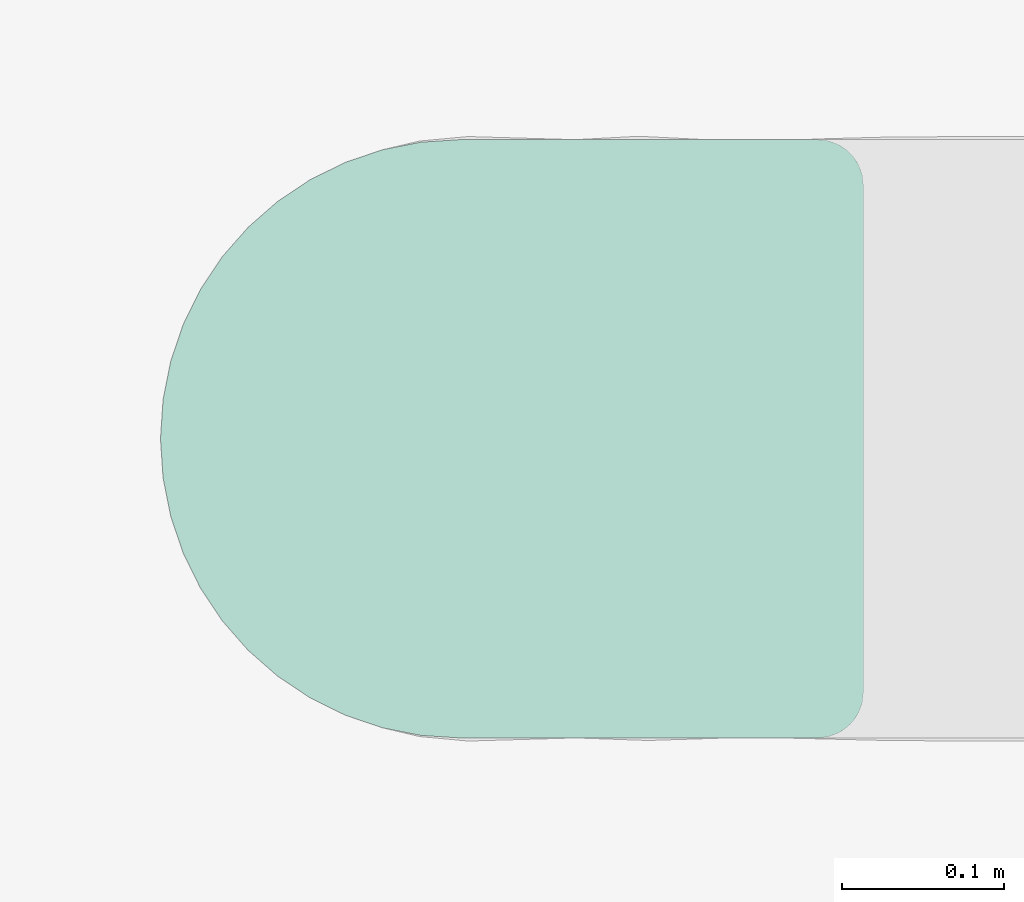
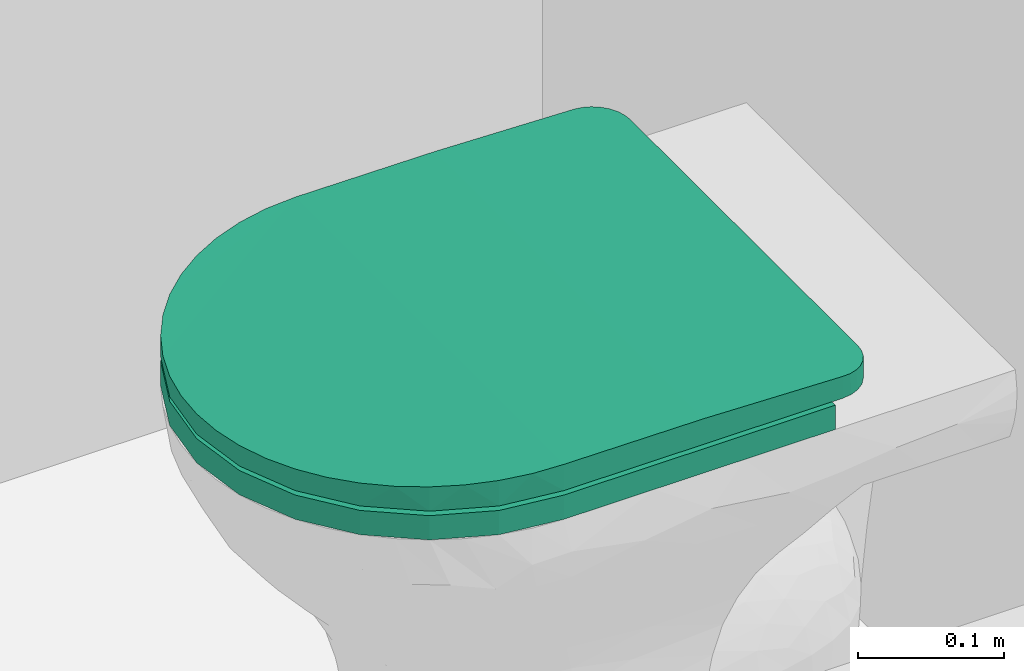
# One storey, part 8 of 10: 1 flow terminal.
"""IFC2X3 building model written with IfcOpenShell, lengths in metres."""

import ifcopenshell
import ifcopenshell.guid

model = None  # the IFC model being written
_history = None  # IfcOwnerHistory: only IFC2X3 demands one
_inside = {}  # id of a spatial element -> (the spatial element, [elements in it])
_under = {}  # id of a project, library or spatial element -> (it, [spatial elements below it])
_declared = {}  # id of a project -> (the project, [libraries it declares])
_typed = {}  # id of a type object -> (the type object, [elements of that type])
_made_of = {}  # id of a material, layer set ... -> (it, [elements and type objects made of it])


def new_model(schema):
    """Start an empty IFC model of exactly this schema.

    Asked for "IFC4X3", IfcOpenShell would pick the latest addendum, in which some entities
    have other attributes; the version numbers below select the first issue.
    IFC2X3 requires an IfcOwnerHistory on every rooted entity: one is made here for all.
    """
    global model, _history
    if schema == "IFC4X3":
        model = ifcopenshell.file(schema_version=(4, 3, 0, 0))
    else:
        model = ifcopenshell.file(schema=schema)
    _inside.clear()
    _under.clear()
    _declared.clear()
    _typed.clear()
    _made_of.clear()
    _history = None
    if model.schema == "IFC2X3":
        org = make("IfcOrganization", Name="unknown")
        user = make(
            "IfcPersonAndOrganization",
            ThePerson=make("IfcPerson", FamilyName="unknown"),
            TheOrganization=org,
        )
        app = make(
            "IfcApplication",
            ApplicationDeveloper=org,
            Version="unknown",
            ApplicationFullName="unknown",
            ApplicationIdentifier="unknown",
        )
        _history = make(
            "IfcOwnerHistory",
            OwningUser=user,
            OwningApplication=app,
            ChangeAction="ADDED",
            CreationDate=0,
        )
    return model


def make(cls, **values):
    """One entity of the class cls with the attributes given. An attribute that is None is left unset."""
    return model.create_entity(
        cls, **{name: value for name, value in values.items() if value is not None}
    )


def entity(cls, *values):
    """Any entity or typed value of the class cls, its attributes in the order of the schema. None: left unset."""
    e = model.create_entity(cls)
    for i, value in enumerate(values):
        if value is not None:
            e[i] = value
    return e


def rooted(cls, **values):
    """An entity with a GlobalId (a new one), such as an element, a storey or a relation."""
    return make(cls, GlobalId=ifcopenshell.guid.new(), OwnerHistory=_history, **values)


def si_unit(unit_type, name, prefix=None):
    """IfcSIUnit, for example si_unit("LENGTHUNIT", "METRE", prefix="MILLI")."""
    return make("IfcSIUnit", UnitType=unit_type, Prefix=prefix, Name=name)


def converted_unit(unit_type, name, factor, base, dimensions=None, offset=None):
    """IfcConversionBasedUnit, such as the inch: factor (a typed value) times the base unit."""
    return make(
        "IfcConversionBasedUnit"
        if offset is None
        else "IfcConversionBasedUnitWithOffset",
        ConversionOffset=offset,
        Dimensions=None
        if dimensions is None
        else entity("IfcDimensionalExponents", *dimensions),
        UnitType=unit_type,
        Name=name,
        ConversionFactor=make(
            "IfcMeasureWithUnit", ValueComponent=factor, UnitComponent=base
        ),
    )


def derived_unit(unit_type, elements):
    """IfcDerivedUnit: a product of units, each with its exponent."""
    return make(
        "IfcDerivedUnit",
        Elements=[
            make("IfcDerivedUnitElement", Unit=unit, Exponent=power)
            for unit, power in elements
        ],
        UnitType=unit_type,
    )


def assignment(units):
    """IfcUnitAssignment: the units of a project."""
    return None if units is None else make("IfcUnitAssignment", Units=units)


def point(xyz):
    """IfcCartesianPoint."""
    return None if xyz is None else make("IfcCartesianPoint", Coordinates=xyz)


def direction(xyz):
    """IfcDirection."""
    return None if xyz is None else make("IfcDirection", DirectionRatios=xyz)


def frame(location, z_axis=None, x_axis=None):
    """IfcAxis2Placement3D, a coordinate frame: its origin and axes. An axis left out is left unset."""
    return make(
        "IfcAxis2Placement3D",
        Location=point(location),
        Axis=direction(z_axis),
        RefDirection=direction(x_axis),
    )


def origin():
    """The frame at (0, 0, 0) with its axes left unset."""
    return frame((0.0, 0.0, 0.0))


def place(relative_to, where):
    """IfcLocalPlacement: puts the frame where relative to a parent placement (None: the world)."""
    return make(
        "IfcLocalPlacement", PlacementRelTo=relative_to, RelativePlacement=where
    )


def context(
    kind, dimensions, precision=None, world=None, true_north=None, identifier=None
):
    """IfcGeometricRepresentationContext, for example the 3D "Model" context."""
    return make(
        "IfcGeometricRepresentationContext",
        ContextIdentifier=identifier,
        ContextType=kind,
        CoordinateSpaceDimension=dimensions,
        Precision=precision,
        WorldCoordinateSystem=world,
        TrueNorth=true_north,
    )


def subcontext(parent, identifier, kind, view, scale=None):
    """IfcGeometricRepresentationSubContext, for example "Body" below "Model"."""
    return make(
        "IfcGeometricRepresentationSubContext",
        ContextIdentifier=identifier,
        ContextType=kind,
        ParentContext=parent,
        TargetScale=scale,
        TargetView=view,
    )


def project(units=None, contexts=None):
    """IfcProject with its units and contexts."""
    return rooted(
        "IfcProject",
        Name="project",
        RepresentationContexts=contexts,
        UnitsInContext=assignment(units),
    )


def spatial(cls, under=None, at=None, **own):
    """A site, building, storey or space (cls), placed at a placement, below another one or the project."""
    s = rooted(cls, ObjectPlacement=at, **own)
    if under is not None:
        _under.setdefault(under.id(), (under, []))[1].append(s)
    return s


def faces_of(points, faces, orient=None, outer=None):
    """IfcFace entities. A face is a list of loops; a loop is a list of indices into points, from 0.

    orient and outer hold one flag for each loop. By default every Orientation is true, the
    first loop of a face is its IfcFaceOuterBound and the others are IfcFaceBound.
    """
    made = []
    for i, loops in enumerate(faces):
        bounds = []
        for j, loop in enumerate(loops):
            is_outer = j == 0 if outer is None else outer[i][j]
            bounds.append(
                make(
                    "IfcFaceOuterBound" if is_outer else "IfcFaceBound",
                    Bound=make("IfcPolyLoop", Polygon=[points[k] for k in loop]),
                    Orientation=True if orient is None else orient[i][j],
                )
            )
        made.append(make("IfcFace", Bounds=bounds))
    return made


def faceted_brep(points, faces, orient=None, outer=None, voids=None):
    """IfcFacetedBrep: a solid bounded by flat faces; with voids (closed shells), ...WithVoids."""
    shared = [point(p) for p in points]
    hull = make("IfcClosedShell", CfsFaces=faces_of(shared, faces, orient, outer))
    if voids is None:
        return make("IfcFacetedBrep", Outer=hull)
    return make(
        "IfcFacetedBrepWithVoids",
        Outer=hull,
        Voids=[
            make(cls, CfsFaces=faces_of(shared, fs, o, b)) for cls, fs, o, b in voids
        ],
    )


def shape(context_of_items, identifier, shape_type, items):
    """IfcShapeRepresentation: the items that make up one representation, for example the "Body"."""
    return make(
        "IfcShapeRepresentation",
        ContextOfItems=context_of_items,
        RepresentationIdentifier=identifier,
        RepresentationType=shape_type,
        Items=items,
    )


def source(mapping_origin, context_of_items, identifier, shape_type, items):
    """IfcRepresentationMap: a shape defined once, which mapped items show again and again."""
    return make(
        "IfcRepresentationMap",
        MappingOrigin=mapping_origin,
        MappedRepresentation=shape(context_of_items, identifier, shape_type, items),
    )


def transform(
    local_origin,
    x_axis=None,
    y_axis=None,
    z_axis=None,
    scale=None,
    scale2=None,
    scale3=None,
    uniform=True,
):
    """IfcCartesianTransformationOperator3D, or its non-uniform kind. x_axis, y_axis, z_axis: its Axis1, 2, 3."""
    if uniform:
        return make(
            "IfcCartesianTransformationOperator3D",
            Axis1=direction(x_axis),
            Axis2=direction(y_axis),
            LocalOrigin=point(local_origin),
            Scale=scale,
            Axis3=direction(z_axis),
        )
    return make(
        "IfcCartesianTransformationOperator3DnonUniform",
        Axis1=direction(x_axis),
        Axis2=direction(y_axis),
        LocalOrigin=point(local_origin),
        Scale=scale,
        Axis3=direction(z_axis),
        Scale2=scale2,
        Scale3=scale3,
    )


def mapped(mapping_source, mapping_target):
    """IfcMappedItem: shows the shape of a source again, moved by a transform."""
    return make(
        "IfcMappedItem", MappingSource=mapping_source, MappingTarget=mapping_target
    )


def material(Name=None, Category=None):
    """IfcMaterial."""
    return make("IfcMaterial", Name=Name, Category=Category)


def made_of(thing, what):
    """Note that an element or type object is made of a material, layer set ...; save() writes the relation."""
    if what is not None:
        _made_of.setdefault(what.id(), (what, []))[1].append(thing)
    return thing


def element(
    cls,
    number,
    at=None,
    inside=None,
    cuts=None,
    type_object=None,
    material=None,
    context=None,
    identifier="Body",
    shape_type=None,
    held_by="IfcProductDefinitionShape",
    body=None,
    shapes=None,
    **own,
):
    """One element of the class cls, such as IfcWall. Its Tag is "e" and its number.

    at: its placement. inside: the storey or other place that contains it. cuts: it is an
    opening in that element (IfcRelVoidsElement). A single representation is given by context,
    identifier, shape_type and body (its items); several are given by shapes. held_by: the class
    of the entity that holds the representations. save() writes the other relations.
    """
    e = rooted(cls, Tag="e%d" % number, ObjectPlacement=at, **own)
    if body is not None:
        shapes = [shape(context, identifier, shape_type, body)]
    if shapes is not None:
        e.Representation = make(held_by, Representations=shapes)
    if inside is not None:
        _inside.setdefault(inside.id(), (inside, []))[1].append(e)
    if cuts is not None:
        rooted(
            "IfcRelVoidsElement", RelatingBuildingElement=cuts, RelatedOpeningElement=e
        )
    if type_object is not None:
        _typed.setdefault(type_object.id(), (type_object, []))[1].append(e)
    return made_of(e, material)


def aggregate(whole, parts):
    """IfcRelAggregates: a whole, such as a stair, and the parts it consists of."""
    return rooted("IfcRelAggregates", RelatingObject=whole, RelatedObjects=parts)


def save(model, path):
    """Write the relations noted so far, then the file.

    IfcRelAggregates (storeys below a building ...), IfcRelContainedInSpatialStructure (elements
    in a storey), IfcRelDefinesByType, IfcRelAssociatesMaterial and IfcRelDeclares: one each for
    every whole, place, type object, material and project.
    """
    for whole, parts in _under.values():
        aggregate(whole, parts)
    for where, things in _inside.values():
        rooted(
            "IfcRelContainedInSpatialStructure",
            RelatedElements=things,
            RelatingStructure=where,
        )
    for kind, things in _typed.values():
        rooted("IfcRelDefinesByType", RelatedObjects=things, RelatingType=kind)
    for what, things in _made_of.values():
        rooted("IfcRelAssociatesMaterial", RelatedObjects=things, RelatingMaterial=what)
    for by, libraries in _declared.values():
        rooted("IfcRelDeclares", RelatingContext=by, RelatedDefinitions=libraries)
    model.write(path)


model = new_model("IFC2X3")

# Units and contexts
model_context = context("Model", 3, precision=1e-05, world=origin(), true_north=direction((6.12303176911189e-17, 1.0)))
body_context = subcontext(model_context, "Body", "Model", "MODEL_VIEW")
ifc_project = project(units=[si_unit("LENGTHUNIT", "METRE"), si_unit("AREAUNIT", "SQUARE_METRE"), si_unit("VOLUMEUNIT", "CUBIC_METRE"), converted_unit("PLANEANGLEUNIT", "DEGREE", entity("IfcRatioMeasure", 0.0174532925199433), si_unit("PLANEANGLEUNIT", "RADIAN"), dimensions=[0, 0, 0, 0, 0, 0, 0]), si_unit("MASSUNIT", "GRAM", prefix="KILO"), derived_unit("MASSDENSITYUNIT", [(si_unit("MASSUNIT", "GRAM", prefix="KILO"), 1), (si_unit("LENGTHUNIT", "METRE"), -3)]), si_unit("TIMEUNIT", "SECOND"), si_unit("FREQUENCYUNIT", "HERTZ"), si_unit("THERMODYNAMICTEMPERATUREUNIT", "DEGREE_CELSIUS"), derived_unit("THERMALTRANSMITTANCEUNIT", [(si_unit("MASSUNIT", "GRAM", prefix="KILO"), 1), (si_unit("THERMODYNAMICTEMPERATUREUNIT", "KELVIN"), -1), (si_unit("TIMEUNIT", "SECOND"), -3)]), derived_unit("VOLUMETRICFLOWRATEUNIT", [(si_unit("LENGTHUNIT", "METRE"), 3), (si_unit("TIMEUNIT", "SECOND"), -1)]), si_unit("ELECTRICCURRENTUNIT", "AMPERE"), si_unit("ELECTRICVOLTAGEUNIT", "VOLT"), si_unit("POWERUNIT", "WATT"), si_unit("FORCEUNIT", "NEWTON", prefix="KILO"), si_unit("ILLUMINANCEUNIT", "LUX"), si_unit("LUMINOUSFLUXUNIT", "LUMEN"), si_unit("LUMINOUSINTENSITYUNIT", "CANDELA"), derived_unit("USERDEFINED", [(si_unit("MASSUNIT", "GRAM", prefix="KILO"), -1), (si_unit("LENGTHUNIT", "METRE"), -2), (si_unit("TIMEUNIT", "SECOND"), 3), (si_unit("LUMINOUSFLUXUNIT", "LUMEN"), 1)]), derived_unit("LINEARVELOCITYUNIT", [(si_unit("LENGTHUNIT", "METRE"), 1), (si_unit("TIMEUNIT", "SECOND"), -1)]), si_unit("PRESSUREUNIT", "PASCAL"), derived_unit("USERDEFINED", [(si_unit("LENGTHUNIT", "METRE"), -2), (si_unit("MASSUNIT", "GRAM", prefix="KILO"), 1), (si_unit("TIMEUNIT", "SECOND"), -2)])], contexts=[model_context])

# Site, building, storey, space
site_placement = place(None, origin())
site = spatial("IfcSite", under=ifc_project, at=site_placement, Name="Surface", CompositionType="ELEMENT")
building_placement = place(site_placement, origin())
building = spatial("IfcBuilding", under=site, at=building_placement, CompositionType="ELEMENT")
storey_placement = place(building_placement, origin())
storey = spatial("IfcBuildingStorey", under=building, at=storey_placement, Name="Nivel 0.0", CompositionType="ELEMENT", Elevation=0.0)
space_placement = place(storey_placement, origin())
space = spatial("IfcSpace", under=storey, at=space_placement, Name="6", CompositionType="ELEMENT", InteriorOrExteriorSpace="INTERNAL")

# Flow terminal
ifc_material = material(Name="Plastico - Ferrum - Urea - Blanco")
shared_shape = source(origin(), body_context, "Body", "Brep", [
    faceted_brep([(0.00159527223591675, 0.400390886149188, 0.0202499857), (0.00159527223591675, 0.400390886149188, 0.0), (0.00159527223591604, 0.185797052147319, 0.0), (0.00159527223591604, 0.185797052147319, 0.0202499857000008), (0.369998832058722, 0.185797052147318, 0.0), (0.369998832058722, 0.400390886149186, 0.0), (0.369998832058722, 0.400390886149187, 0.0202499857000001), (0.369998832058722, 0.185797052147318, 0.0202499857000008), (0.363722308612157, 0.138122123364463, 0.0202499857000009), (0.00787179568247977, 0.138122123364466, 0.0202499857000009), (0.0262736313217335, 0.0936961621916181, 0.0202499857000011), (0.0555467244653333, 0.0555467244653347, 0.0202499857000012), (0.0936961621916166, 0.0262736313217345, 0.0202499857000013), (0.138122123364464, 0.00787179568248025, 0.0202499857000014), (0.185797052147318, 0.00159527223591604, 0.0202499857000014), (0.233471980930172, 0.00787179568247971, 0.0202499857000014), (0.277897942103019, 0.0262736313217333, 0.0202499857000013), (0.316047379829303, 0.0555467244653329, 0.0202499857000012), (0.345320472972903, 0.0936961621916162, 0.0202499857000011), (0.363722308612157, 0.138122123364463, 0.0), (0.345320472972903, 0.0936961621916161, 0.0), (0.316047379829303, 0.055546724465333, 0.0), (0.277897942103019, 0.0262736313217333, 0.0), (0.233471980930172, 0.00787179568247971, 0.0), (0.185797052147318, 0.00159527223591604, 0.0), (0.138122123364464, 0.00787179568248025, 0.0), (0.0936961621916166, 0.0262736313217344, 0.0), (0.0555467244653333, 0.0555467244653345, 0.0), (0.0262736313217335, 0.0936961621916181, 0.0), (0.00787179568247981, 0.138122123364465, 0.0)], [[[0, 1, 2, 3]], [[4, 5, 6, 7]], [[8, 7, 6, 0, 3, 9, 10, 11, 12, 13, 14, 15, 16, 17, 18]], [[1, 0, 6, 5]], [[2, 1, 5, 4, 19, 20, 21, 22, 23, 24, 25, 26, 27, 28, 29]], [[29, 28, 10, 9]], [[2, 29, 9, 3]], [[26, 25, 13, 12]], [[27, 26, 12, 11]], [[28, 27, 11, 10]], [[14, 13, 25, 24]], [[22, 21, 17, 16]], [[23, 22, 16, 15]], [[8, 18, 20, 19]], [[21, 20, 18, 17]], [[4, 7, 8, 19]], [[23, 15, 14, 24]]]),
    faceted_brep([(0.00159527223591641, 0.296012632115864, 0.0454038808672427), (0.00159527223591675, 0.406206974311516, 0.0422630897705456), (0.00159527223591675, 0.406206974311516, 0.0239999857), (0.00159527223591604, 0.185797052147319, 0.0239999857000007), (0.00159527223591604, 0.185797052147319, 0.0459125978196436), (0.369998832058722, 0.185797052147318, 0.0239999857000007), (0.369998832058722, 0.406206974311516, 0.0239999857), (0.369998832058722, 0.406206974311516, 0.0422630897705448), (0.369998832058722, 0.296014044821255, 0.0454038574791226), (0.369998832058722, 0.185797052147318, 0.0459125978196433), (0.0396601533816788, 0.0736618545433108, 0.0437289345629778), (0.026273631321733, 0.0936961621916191, 0.023999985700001), (0.0555467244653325, 0.0555467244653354, 0.0239999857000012), (0.00317155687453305, 0.161750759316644, 0.0456738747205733), (0.0078717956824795, 0.138122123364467, 0.0239999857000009), (0.0156186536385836, 0.115301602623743, 0.0448579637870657), (0.138122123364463, 0.00787179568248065, 0.0239999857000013), (0.185797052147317, 0.00159527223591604, 0.0239999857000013), (0.161751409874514, 0.00317147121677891, 0.0409600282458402), (0.0936961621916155, 0.026273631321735, 0.0239999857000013), (0.11529900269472, 0.015619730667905, 0.0415274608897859), (0.138116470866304, 0.00787331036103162, 0.0411783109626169), (0.0736574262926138, 0.0396635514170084, 0.0425281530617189), (0.185798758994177, 0.00159527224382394, 0.040885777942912), (0.00787305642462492, 0.138117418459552, 0.0453171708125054), (0.0262752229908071, 0.0936934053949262, 0.0443190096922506), (0.0936895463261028, 0.0262774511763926, 0.0419865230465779), (0.0555446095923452, 0.0555488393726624, 0.0431204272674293), (0.209846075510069, 0.00317191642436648, 0.0409600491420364), (0.23347198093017, 0.0078717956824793, 0.0239999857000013), (0.233480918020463, 0.0078741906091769, 0.041178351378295), (0.256298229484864, 0.0156210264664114, 0.041527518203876), (0.345320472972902, 0.0936961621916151, 0.023999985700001), (0.363722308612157, 0.138122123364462, 0.0239999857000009), (0.355976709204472, 0.11530464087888, 0.0448580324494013), (0.316047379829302, 0.0555467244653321, 0.0239999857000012), (0.331935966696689, 0.0736644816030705, 0.0437290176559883), (0.277897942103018, 0.0262736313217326, 0.0239999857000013), (0.297939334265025, 0.0396655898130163, 0.0425282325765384), (0.368422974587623, 0.161754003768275, 0.0456739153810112), (0.277907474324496, 0.0262791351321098, 0.0419865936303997), (0.316051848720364, 0.0555511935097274, 0.0431205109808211), (0.345320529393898, 0.0936962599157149, 0.0443190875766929), (0.363721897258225, 0.13812058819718, 0.0453172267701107), (0.0297849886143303, 0.43439669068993, 0.0239999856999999), (0.341809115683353, 0.43439669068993, 0.0239999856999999), (0.349105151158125, 0.43343614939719, 0.0239999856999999), (0.355903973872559, 0.430619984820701, 0.0239999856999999), (0.361742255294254, 0.426140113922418, 0.0239999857), (0.366222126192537, 0.420301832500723, 0.0239999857), (0.369038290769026, 0.413503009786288, 0.0239999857), (0.00255581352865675, 0.413503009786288, 0.0239999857), (0.00537197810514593, 0.420301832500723, 0.0239999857), (0.00985184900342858, 0.426140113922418, 0.0239999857), (0.0156901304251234, 0.430619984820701, 0.0239999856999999), (0.0224889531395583, 0.43343614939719, 0.0239999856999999), (0.341809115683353, 0.434396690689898, 0.0410363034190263), (0.369291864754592, 0.412480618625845, 0.0420050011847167), (0.367206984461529, 0.418438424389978, 0.0417519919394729), (0.363848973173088, 0.423782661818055, 0.0415184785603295), (0.359385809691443, 0.428246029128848, 0.0413186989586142), (0.354040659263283, 0.431604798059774, 0.0411655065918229), (0.348081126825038, 0.43369009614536, 0.0410691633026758), (0.0297849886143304, 0.434396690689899, 0.0410363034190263), (0.00438711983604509, 0.418438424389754, 0.0417519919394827), (0.00230223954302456, 0.412480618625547, 0.0420050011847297), (0.0235129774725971, 0.433690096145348, 0.0410691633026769), (0.0175534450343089, 0.43160479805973, 0.041165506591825), (0.0122082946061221, 0.428246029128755, 0.0413186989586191), (0.00774513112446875, 0.423782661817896, 0.0415184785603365)], [[[0, 1, 2, 3, 4]], [[5, 6, 7, 8, 9]], [[10, 11, 12]], [[13, 3, 14]], [[14, 11, 15]], [[16, 17, 18]], [[19, 16, 20]], [[21, 16, 18]], [[12, 19, 22]], [[17, 23, 18]], [[21, 20, 16]], [[24, 14, 15]], [[3, 13, 4]], [[14, 24, 13]], [[11, 25, 15]], [[20, 26, 19]], [[25, 11, 10]], [[10, 12, 27]], [[27, 12, 22]], [[19, 26, 22]], [[17, 28, 23]], [[28, 17, 29]], [[30, 28, 29]], [[30, 29, 31]], [[32, 33, 34]], [[35, 32, 36]], [[37, 35, 38]], [[37, 31, 29]], [[39, 33, 5]], [[40, 31, 37]], [[38, 35, 41]], [[41, 35, 36]], [[37, 38, 40]], [[42, 32, 34]], [[33, 39, 43]], [[43, 34, 33]], [[36, 32, 42]], [[5, 9, 39]], [[44, 45, 46, 47, 48, 49, 50, 6, 5, 33, 32, 35, 37, 29, 17, 16, 19, 12, 11, 14, 3, 2, 51, 52, 53, 54, 55]], [[9, 31, 40]], [[31, 9, 30]], [[9, 28, 30]], [[40, 38, 9]], [[42, 34, 9]], [[9, 36, 42]], [[41, 36, 9]], [[41, 9, 38]], [[23, 28, 9]], [[21, 4, 20]], [[22, 26, 4]], [[26, 20, 4]], [[4, 21, 18]], [[25, 10, 4]], [[27, 4, 10]], [[15, 4, 24]], [[25, 4, 15]], [[4, 27, 22]], [[4, 18, 23]], [[34, 43, 9]], [[9, 4, 23]], [[8, 0, 9]], [[7, 56, 8]], [[57, 58, 7]], [[59, 60, 7]], [[60, 61, 7]], [[56, 7, 62]], [[7, 61, 62]], [[59, 7, 58]], [[56, 63, 8]], [[1, 0, 63]], [[4, 13, 24]], [[9, 0, 4]], [[1, 64, 65]], [[1, 66, 67]], [[67, 68, 1]], [[1, 69, 64]], [[1, 68, 69]], [[66, 1, 63]], [[63, 0, 8]], [[9, 43, 39]], [[55, 54, 67]], [[44, 55, 66]], [[66, 63, 44]], [[68, 67, 54]], [[66, 55, 67]], [[54, 53, 68]], [[53, 52, 69]], [[51, 2, 65]], [[52, 51, 64]], [[64, 69, 52]], [[1, 65, 2]], [[64, 51, 65]], [[53, 69, 68]], [[50, 49, 58]], [[6, 50, 57]], [[57, 7, 6]], [[59, 58, 49]], [[57, 50, 58]], [[49, 48, 59]], [[48, 47, 60]], [[46, 45, 62]], [[47, 46, 61]], [[61, 60, 47]], [[56, 62, 45]], [[61, 46, 62]], [[48, 60, 59]], [[56, 45, 44, 63]]]),
])
flow_terminal_placement = place(space_placement, frame((-5.16109099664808, -2.06240867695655, 0.372318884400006), z_axis=(0.0, 0.0, 1.0), x_axis=(0.0, -1.0, 0.0)))
element("IfcFlowTerminal", 1, at=flow_terminal_placement, inside=space, material=ifc_material, Name="Inodoro-Ferrum-Veneto-Tapa_y_Asiento:Tapa de Inodoro", ObjectType="Inodoro-Ferrum-Veneto-Tapa_y_Asiento:Tapa de Inodoro", context=body_context, shape_type="MappedRepresentation", body=[
    mapped(shared_shape, transform((0.0, 0.0, 0.0), scale=1.0)),
])

save(model, "model.ifc")
